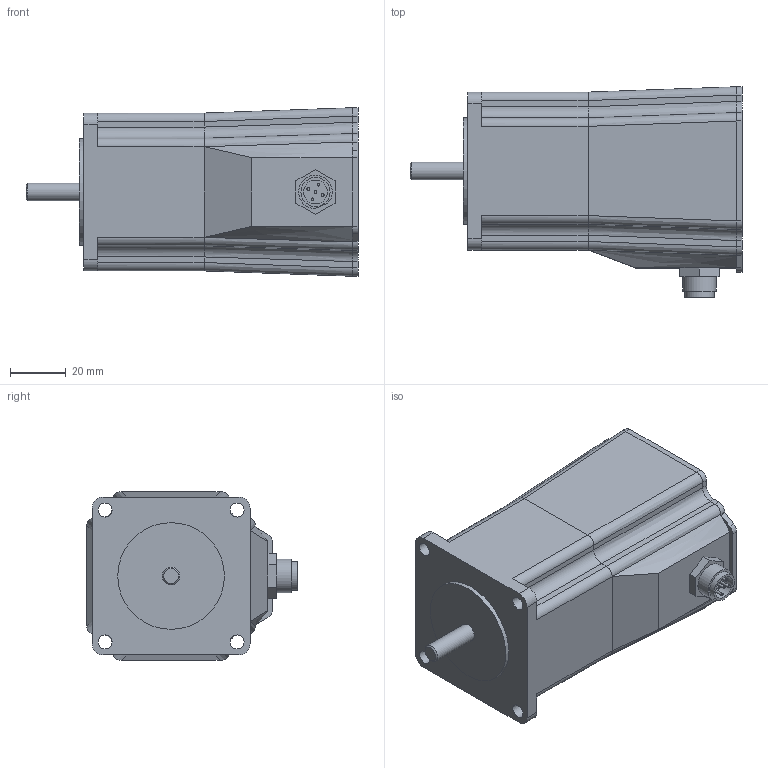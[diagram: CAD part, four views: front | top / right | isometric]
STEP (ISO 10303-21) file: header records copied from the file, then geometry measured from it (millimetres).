
FILE_DESCRIPTION( ( '' ), '1' );
FILE_NAME( 'T:/CAD/JVL/Opgave 2/LT0088-12GB.stp', '2007-10-09T08:34:20', ( 'Jørgen Vinther' ), ( 'www.stream-design.com' ), 'XStep 1.0', 'Solid edge V19', ' ' );
FILE_SCHEMA( ( 'CONFIG_CONTROL_DESIGN' ) );
Length unit declared in the file: millimetre
Products named in the file (1): 1
Bounding box: 118.6 x 75.15 x 60.2 mm (x, y, z)
Volume: 303006.1 mm3; surface area: 29627.3 mm2
Topology: 1 solids, 1 shells, 127 faces, 326 edges, 212 vertices
Faces by surface type: plane 68, cylinder 44, bspline 14, cone 1
Full cylindrical faces by diameter (mm): 1 x5, 5 x4, 6.35 x1, 8.5 x1, 10.4 x1, 38.1 x1
Entity records: 5450 total; most frequent: CARTESIAN_POINT 2571, ORIENTED_EDGE 600, DIRECTION 518, EDGE_CURVE 300, VERTEX_POINT 200, AXIS2_PLACEMENT_3D 179, EDGE_LOOP 160, LINE 160
